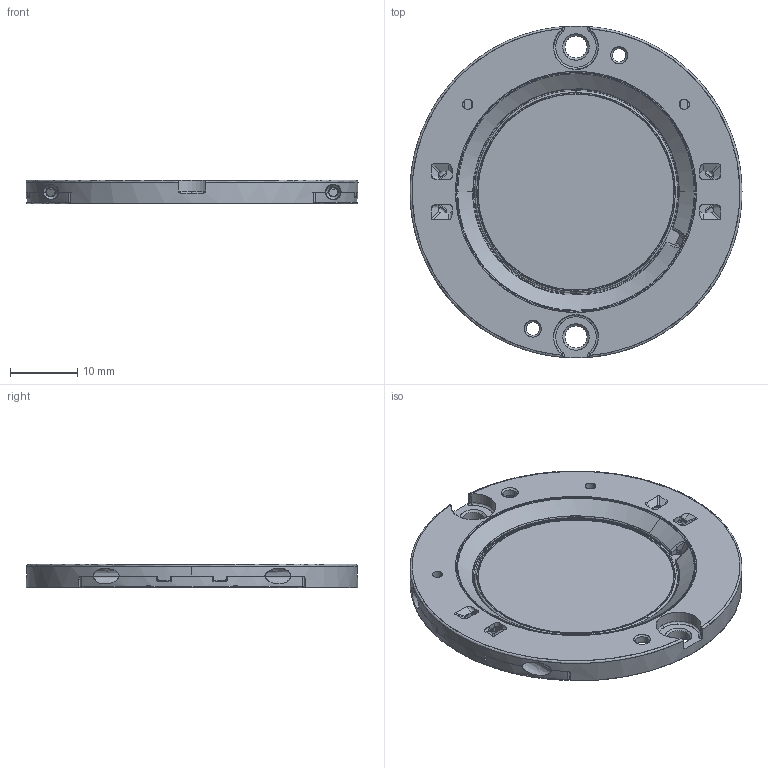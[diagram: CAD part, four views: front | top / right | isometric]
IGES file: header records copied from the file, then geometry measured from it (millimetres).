
Start section: SolidWorks IGES file using analytic representation for surfaces
Global section: file name: D:\Users\5160206\Desktop\3D document\GEN8\Assembly\Vero29\Vero SE\GEN8 Vero29 SE.IGS; native system: SolidWorks 2018; preprocessor: SolidWorks 2018; author: 5160206; date: 200915.104459; units: millimetre
Bounding box: 49.23 x 49.18 x 3.5 mm (x, y, z)
Surface area: 8020.6 mm2 (no closed solid volume)
Topology: 0 solids, 0 shells, 2185 faces, 20241 edges, 20232 vertices
Faces by surface type: bspline 2100, revolution 85
